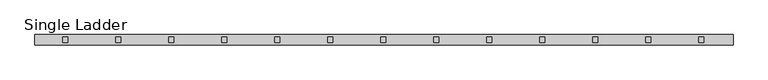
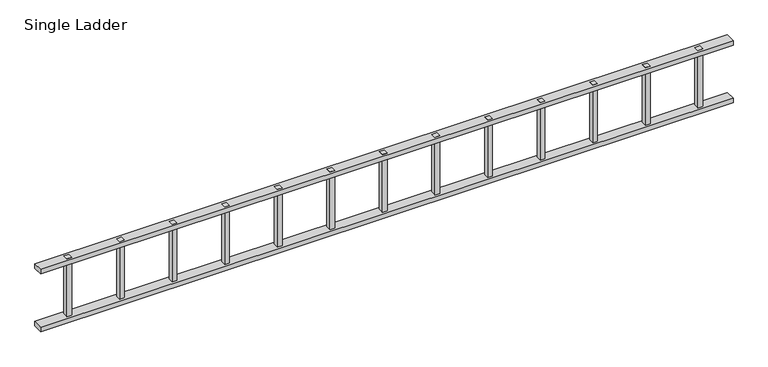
"""IFC4 building model written with IfcOpenShell, lengths in millimetres: proxy geometry, Echelle : Single Ladder."""

from ifc_helpers import new_model, si_unit, frame, origin, origin_with_axes, place, context, project, spatial, polyline, outline, extrude, source, transform, mapped, element, save


def single_ladder_ebb12d60(model_context):
    return source(origin(), model_context, "Body", "SweptSolid", [
        extrude(outline(polyline([(3532.75, 14.0), (3532.75, -14.0), (3507.25, -14.0), (3507.25, 14.0), (3532.75, 14.0)])), origin_with_axes(), (0.0, 0.0, 1.0), 350.0),
        extrude(outline(polyline([(3252.75, 14.0), (3252.75, -14.0), (3227.25, -14.0), (3227.25, 14.0), (3252.75, 14.0)])), origin_with_axes(), (0.0, 0.0, 1.0), 350.0),
        extrude(outline(polyline([(2972.75, 14.0), (2972.75, -14.0), (2947.25, -14.0), (2947.25, 14.0), (2972.75, 14.0)])), origin_with_axes(), (0.0, 0.0, 1.0), 350.0),
        extrude(outline(polyline([(2692.75, 14.0), (2692.75, -14.0), (2667.25, -14.0), (2667.25, 14.0), (2692.75, 14.0)])), origin_with_axes(), (0.0, 0.0, 1.0), 350.0),
        extrude(outline(polyline([(2412.75, 14.0), (2412.75, -14.0), (2387.25, -14.0), (2387.25, 14.0), (2412.75, 14.0)])), origin_with_axes(), (0.0, 0.0, 1.0), 350.0),
        extrude(outline(polyline([(2132.75, 14.0), (2132.75, -14.0), (2107.25, -14.0), (2107.25, 14.0), (2132.75, 14.0)])), origin_with_axes(), (0.0, 0.0, 1.0), 350.0),
        extrude(outline(polyline([(1852.75, 14.0), (1852.75, -14.0), (1827.25, -14.0), (1827.25, 14.0), (1852.75, 14.0)])), origin_with_axes(), (0.0, 0.0, 1.0), 350.0),
        extrude(outline(polyline([(1572.75, 14.0), (1572.75, -14.0), (1547.25, -14.0), (1547.25, 14.0), (1572.75, 14.0)])), origin_with_axes(), (0.0, 0.0, 1.0), 350.0),
        extrude(outline(polyline([(1292.75, 14.0), (1292.75, -14.0), (1267.25, -14.0), (1267.25, 14.0), (1292.75, 14.0)])), origin_with_axes(), (0.0, 0.0, 1.0), 350.0),
        extrude(outline(polyline([(1012.75, 14.0), (1012.75, -14.0), (987.25, -14.0), (987.25, 14.0), (1012.75, 14.0)])), origin_with_axes(), (0.0, 0.0, 1.0), 350.0),
        extrude(outline(polyline([(732.75, 14.0), (732.75, -14.0), (707.25, -14.0), (707.25, 14.0), (732.75, 14.0)])), origin_with_axes(), (0.0, 0.0, 1.0), 350.0),
        extrude(outline(polyline([(452.75, 14.0), (452.75, -14.0), (427.25, -14.0), (427.25, 14.0), (452.75, 14.0)])), origin_with_axes(), (0.0, 0.0, 1.0), 350.0),
        extrude(outline(polyline([(172.75, 14.0), (172.75, -14.0), (147.25, -14.0), (147.25, 14.0), (172.75, 14.0)])), origin_with_axes(), (0.0, 0.0, 1.0), 350.0),
        extrude(outline(polyline([(3687.5409665, 27.0), (3687.5409665, -27.0), (0.0, -27.0), (0.0, 27.0), (3687.5409665, 27.0)])), frame((0.0, 0.0, 325.0), z_axis=(0.0, 0.0, 1.0), x_axis=(1.0, 0.0, 0.0)), (0.0, 0.0, 1.0), 25.0),
        extrude(outline(polyline([(3687.5409665, 27.0), (3687.5409665, -27.0), (0.0, -27.0), (0.0, 27.0), (3687.5409665, 27.0)])), origin_with_axes(), (0.0, 0.0, 1.0), 25.0),
    ])


if __name__ == "__main__":
    model = new_model("IFC4")
    model_context = context("Model", 3, world=origin())
    ifc_project = project(units=[si_unit("LENGTHUNIT", "METRE", prefix="MILLI")], contexts=[model_context])
    site = spatial("IfcSite", under=ifc_project)
    building = spatial("IfcBuilding", under=site)
    placement = place(None, origin())
    single_ladder_shape = single_ladder_ebb12d60(model_context)
    element("IfcBuildingElementProxy", 1, Name="Echelle : Single Ladder", ObjectType="Echelle : Single Ladder", at=placement, inside=building, context=model_context, shape_type="MappedRepresentation", body=[
        mapped(single_ladder_shape, transform((0.0, 0.0, 0.0), x_axis=(1.0, 0.0, 0.0), y_axis=(0.0, 1.0, 0.0), z_axis=(0.0, 0.0, 1.0))),
    ])
    save(model, "model.ifc")
